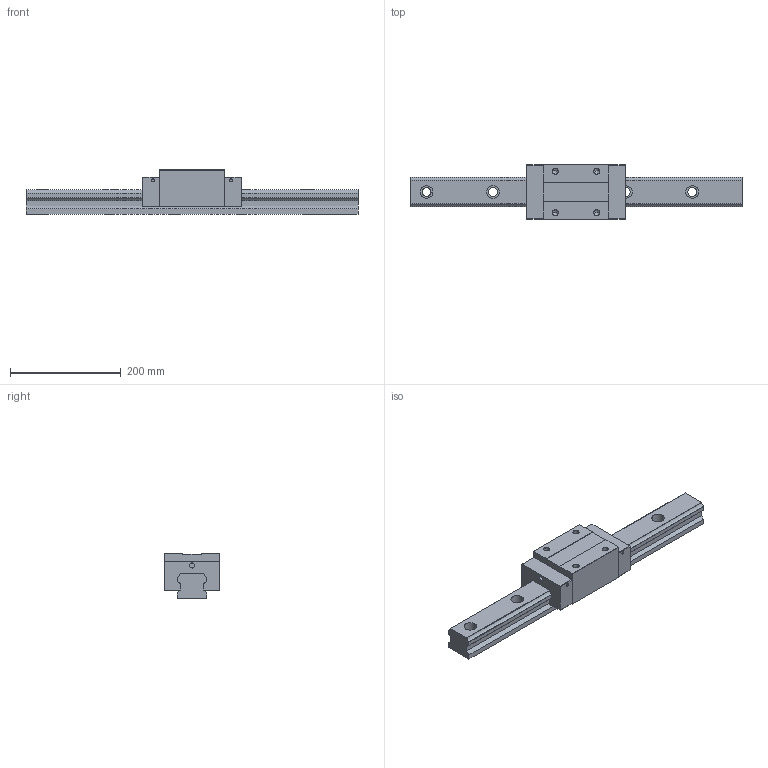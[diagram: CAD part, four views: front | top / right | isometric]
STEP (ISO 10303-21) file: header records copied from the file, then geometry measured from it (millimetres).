
FILE_DESCRIPTION (( 'STEP AP203' ), '1' );
FILE_NAME ('TRH55VL-SZ.STEP', '2024-07-10T02:43:51', ( '' ), ( '' ), 'SwSTEP 2.0', 'SolidWorks 2022', '' );
FILE_SCHEMA (( 'CONFIG_CONTROL_DESIGN' ));
Length unit declared in the file: millimetre
Products named in the file (1): TRH55VL-SZ
Bounding box: 600 x 100 x 80 mm (x, y, z)
Volume: 2026651.5 mm3; surface area: 219728.1 mm2
Topology: 2 solids, 2 shells, 175 faces, 460 edges, 296 vertices
Faces by surface type: plane 83, cylinder 76, cone 16
Entity records: 5453 total; most frequent: DIRECTION 964, CARTESIAN_POINT 924, ORIENTED_EDGE 904, EDGE_CURVE 452, AXIS2_PLACEMENT_3D 336, VERTEX_POINT 296, VECTOR 292, LINE 292
